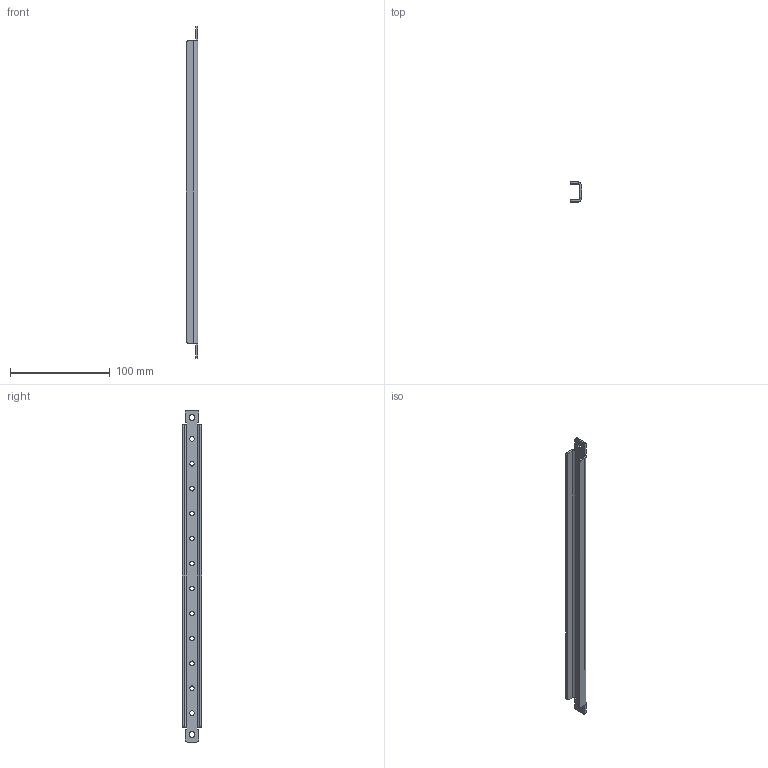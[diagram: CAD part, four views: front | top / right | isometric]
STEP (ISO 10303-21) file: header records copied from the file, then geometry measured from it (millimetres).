
FILE_DESCRIPTION(('STEP AP242'), '1');
FILE_NAME('ÌÏÄ.ÙÌÏ Ìîíòàæíàÿ ïåðåìû÷êà', '', ('UNSPECIFIED'), ('UNSPECIFIED'), 'C3D Converter', 'C3D Toolkit', '');
FILE_SCHEMA(('AP242_MANAGED_MODEL_BASED_3D_ENGINEERING_MIM_LF { 1 0 10303 442 1 1 4 }'));
Length unit declared in the file: millimetre
Products named in the file (1): МПД.ЩМП
Bounding box: 12 x 20 x 333 mm (x, y, z)
Volume: 22673.2 mm3; surface area: 24579.4 mm2
Topology: 1 solids, 1 shells, 56 faces, 146 edges, 92 vertices
Faces by surface type: plane 30, cylinder 26
Full cylindrical faces by diameter (mm): 4.5 x12, 6 x2
Entity records: 2183 total; most frequent: DIRECTION 298, CARTESIAN_POINT 281, ORIENTED_EDGE 264, EDGE_CURVE 132, AXIS2_PLACEMENT_3D 109, EDGE_LOOP 98, VERTEX_POINT 92, LINE 80
